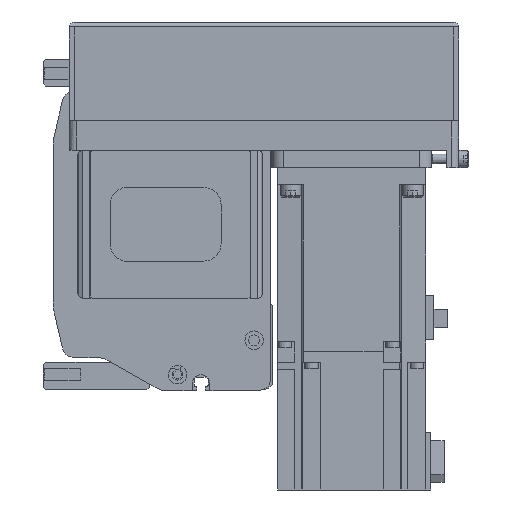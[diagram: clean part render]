
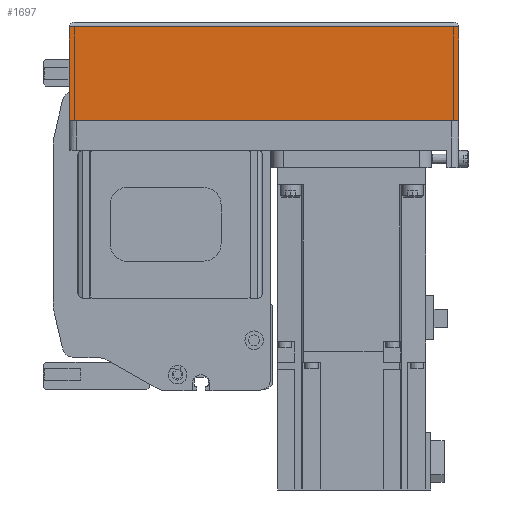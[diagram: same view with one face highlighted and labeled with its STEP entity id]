
A CAD part, left-side view. The second image highlights one B-rep face of the part: STEP entity #1697.
In plain terms, the highlighted planar face has unit normal (-1, 0, 0) as drawn and (0, -1, 0) by its records, which use the part's own axes.
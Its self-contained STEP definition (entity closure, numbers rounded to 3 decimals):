
#1697 = ADVANCED_FACE( '', ( #4258 ), #4259, .T. );
#4258 = FACE_OUTER_BOUND( '', #8010, .T. );
#4259 = PLANE( '', #8011 );
#8010 = EDGE_LOOP( '', ( #12860, #12861, #12862, #12863 ) );
#8011 = AXIS2_PLACEMENT_3D( '', #12864, #12865, #12866 );
#12860 = ORIENTED_EDGE( '', *, *, #21986, .F. );
#12861 = ORIENTED_EDGE( '', *, *, #21987, .F. );
#12862 = ORIENTED_EDGE( '', *, *, #21988, .T. );
#12863 = ORIENTED_EDGE( '', *, *, #21989, .T. );
#12864 = CARTESIAN_POINT( '', ( -158., -39., -12.1 ) );
#12865 = DIRECTION( '', ( 0., -1., 0. ) );
#12866 = DIRECTION( '', ( 0., 0., -1. ) );
#21986 = EDGE_CURVE( '', #26580, #26581, #26582, .T. );
#21987 = EDGE_CURVE( '', #26583, #26580, #26584, .T. );
#21988 = EDGE_CURVE( '', #26583, #26585, #26586, .T. );
#21989 = EDGE_CURVE( '', #26585, #26581, #26587, .T. );
#26580 = VERTEX_POINT( '', #33597 );
#26581 = VERTEX_POINT( '', #33598 );
#26582 = LINE( '', #33599, #33600 );
#26583 = VERTEX_POINT( '', #33601 );
#26584 = LINE( '', #33602, #33603 );
#26585 = VERTEX_POINT( '', #33604 );
#26586 = LINE( '', #33605, #33606 );
#26587 = LINE( '', #33607, #33608 );
#33597 = CARTESIAN_POINT( '', ( 0., -39., -12.1 ) );
#33598 = CARTESIAN_POINT( '', ( 0., -39., -50. ) );
#33599 = CARTESIAN_POINT( '', ( 0., -39., -12.1 ) );
#33600 = VECTOR( '', #40640, 1000. );
#33601 = CARTESIAN_POINT( '', ( -158., -39., -12.1 ) );
#33602 = CARTESIAN_POINT( '', ( -158., -39., -12.1 ) );
#33603 = VECTOR( '', #40641, 1000. );
#33604 = CARTESIAN_POINT( '', ( -158., -39., -50. ) );
#33605 = CARTESIAN_POINT( '', ( -158., -39., -12.1 ) );
#33606 = VECTOR( '', #40642, 1000. );
#33607 = CARTESIAN_POINT( '', ( -158., -39., -50. ) );
#33608 = VECTOR( '', #40643, 1000. );
#40640 = DIRECTION( '', ( 0., 0., -1. ) );
#40641 = DIRECTION( '', ( 1., 0., 0. ) );
#40642 = DIRECTION( '', ( 0., 0., -1. ) );
#40643 = DIRECTION( '', ( 1., 0., 0. ) );
